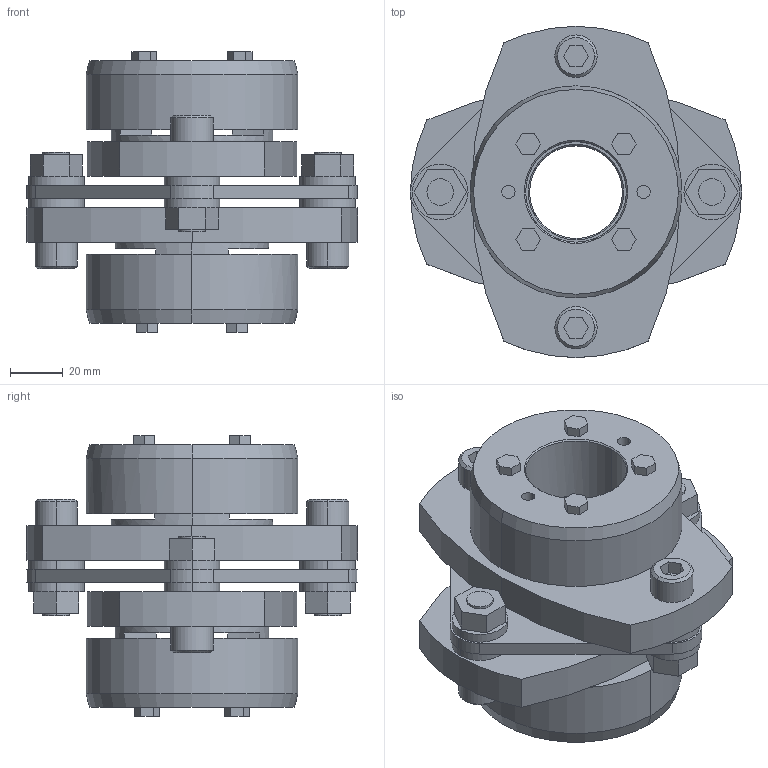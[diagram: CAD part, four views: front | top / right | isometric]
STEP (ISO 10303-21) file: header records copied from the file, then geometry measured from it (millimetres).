
FILE_DESCRIPTION((''),'2;1');
FILE_NAME('LCS-125T7-35×38.stp','2011-09-07T09:54:51',(''),(''),'AutoCAD STEP 2000i','AutoCAD 2000i',', , ');
FILE_SCHEMA(('CONFIG_CONTROL_DESIGN'));
Length unit declared in the file: millimetre
Products named in the file (8): LCS-125T7-35×38; 忣兜1; LC125T7-T038; LC125T7-T035-1; LC125T7-T035; LC125T7-T032-1; LC125T7-T032; LCS125-ITA
Assembly tree (7 placements, depth 2):
  LCS-125T7-35×38
    忣兜1
    LC125T7-T038
    LC125T7-T035-1
    LC125T7-T035
    LC125T7-T032-1
    LC125T7-T032
    LCS125-ITA
Bounding box: 125 x 125 x 106 mm (x, y, z)
Volume: 468866.8 mm3; surface area: 96400 mm2
Topology: 1 solids, 1 shells, 246 faces, 606 edges, 398 vertices
Faces by surface type: plane 146, cylinder 80, cone 20
Entity records: 7513 total; most frequent: DIRECTION 1312, CARTESIAN_POINT 1258, ORIENTED_EDGE 1212, EDGE_CURVE 606, AXIS2_PLACEMENT_3D 452, VECTOR 408, LINE 408, VERTEX_POINT 398
